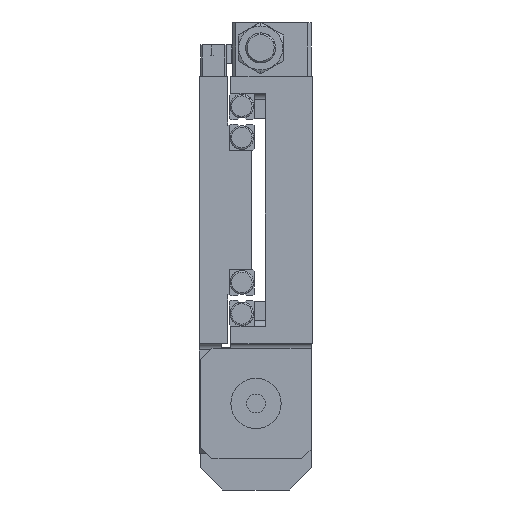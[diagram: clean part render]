
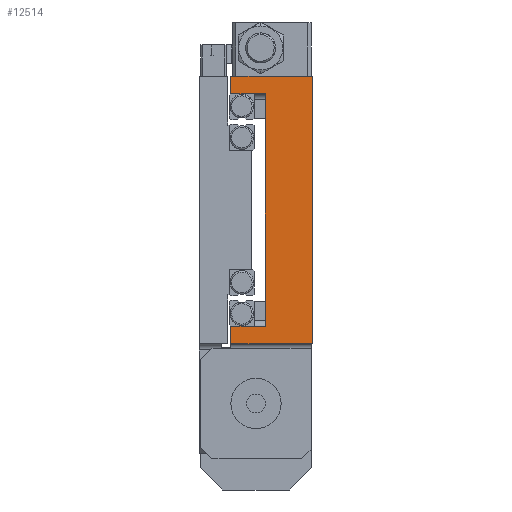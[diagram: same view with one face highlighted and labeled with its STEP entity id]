
A CAD part, left-side view. The second image highlights one B-rep face of the part: STEP entity #12514.
In plain terms, the highlighted planar face has unit normal (-1, 0, 0).
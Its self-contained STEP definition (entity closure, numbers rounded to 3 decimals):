
#40 = ORIENTED_EDGE ( 'NONE', *, *, #30663, .F. ) ;
#779 = LINE ( 'NONE', #3667, #20384 ) ;
#1010 = ORIENTED_EDGE ( 'NONE', *, *, #1670, .T. ) ;
#1014 = DIRECTION ( 'NONE',  ( 1., 0., 0. ) ) ;
#1195 = DIRECTION ( 'NONE',  ( 0., 0., -1. ) ) ;
#1315 = DIRECTION ( 'NONE',  ( 0., -1., 0. ) ) ;
#1670 = EDGE_CURVE ( 'NONE', #10499, #7790, #22744, .T. ) ;
#1713 = EDGE_LOOP ( 'NONE', ( #29705, #1010, #7358, #28256, #29927, #18476, #40, #2095 ) ) ;
#2095 = ORIENTED_EDGE ( 'NONE', *, *, #21143, .F. ) ;
#3362 = PLANE ( 'NONE',  #12503 ) ;
#3667 = CARTESIAN_POINT ( 'NONE',  ( -240., 26., 42.5 ) ) ;
#3966 = LINE ( 'NONE', #17912, #9186 ) ;
#4337 = LINE ( 'NONE', #18289, #34041 ) ;
#6618 = DIRECTION ( 'NONE',  ( 0., 0., 1. ) ) ;
#6886 = EDGE_CURVE ( 'NONE', #16620, #7790, #11387, .T. ) ;
#6970 = EDGE_CURVE ( 'NONE', #10499, #16395, #3966, .T. ) ;
#7358 = ORIENTED_EDGE ( 'NONE', *, *, #6886, .F. ) ;
#7663 = VERTEX_POINT ( 'NONE', #19944 ) ;
#7790 = VERTEX_POINT ( 'NONE', #27795 ) ;
#8372 = EDGE_CURVE ( 'NONE', #31677, #16620, #31348, .T. ) ;
#8686 = VECTOR ( 'NONE', #31951, 1000. ) ;
#8983 = VERTEX_POINT ( 'NONE', #32545 ) ;
#9141 = DIRECTION ( 'NONE',  ( 0., 1., 0. ) ) ;
#9186 = VECTOR ( 'NONE', #31973, 1000. ) ;
#9223 = CARTESIAN_POINT ( 'NONE',  ( -240., 26., 42.5 ) ) ;
#9296 = VECTOR ( 'NONE', #9141, 1000. ) ;
#9383 = CARTESIAN_POINT ( 'NONE',  ( -240., 15., -37. ) ) ;
#10499 = VERTEX_POINT ( 'NONE', #9383 ) ;
#11387 = LINE ( 'NONE', #9223, #33394 ) ;
#12503 = AXIS2_PLACEMENT_3D ( 'NONE', #31017, #1014, #1195 ) ;
#12514 = ADVANCED_FACE ( 'NONE', ( #28137 ), #3362, .F. ) ;
#13231 = VERTEX_POINT ( 'NONE', #25883 ) ;
#14443 = DIRECTION ( 'NONE',  ( 0., 1., 0. ) ) ;
#14913 = CARTESIAN_POINT ( 'NONE',  ( -240., 26., -42.5 ) ) ;
#15109 = EDGE_CURVE ( 'NONE', #31677, #8983, #31003, .T. ) ;
#15464 = CARTESIAN_POINT ( 'NONE',  ( -240., 0., -42.5 ) ) ;
#16395 = VERTEX_POINT ( 'NONE', #29184 ) ;
#16620 = VERTEX_POINT ( 'NONE', #14913 ) ;
#17912 = CARTESIAN_POINT ( 'NONE',  ( -240., 15., -29. ) ) ;
#18289 = CARTESIAN_POINT ( 'NONE',  ( -240., 18.5, 37. ) ) ;
#18476 = ORIENTED_EDGE ( 'NONE', *, *, #25290, .F. ) ;
#19944 = CARTESIAN_POINT ( 'NONE',  ( -240., 26., 37. ) ) ;
#20384 = VECTOR ( 'NONE', #1315, 1000. ) ;
#21143 = EDGE_CURVE ( 'NONE', #16395, #7663, #4337, .T. ) ;
#22416 = DIRECTION ( 'NONE',  ( 0., 0., 1. ) ) ;
#22744 = LINE ( 'NONE', #24912, #23876 ) ;
#22755 = VECTOR ( 'NONE', #6618, 1000. ) ;
#23527 = CARTESIAN_POINT ( 'NONE',  ( -240., 0., -42.5 ) ) ;
#23876 = VECTOR ( 'NONE', #14443, 1000. ) ;
#24403 = DIRECTION ( 'NONE',  ( 0., 1., 0. ) ) ;
#24912 = CARTESIAN_POINT ( 'NONE',  ( -240., 18.5, -37. ) ) ;
#25290 = EDGE_CURVE ( 'NONE', #13231, #8983, #779, .T. ) ;
#25883 = CARTESIAN_POINT ( 'NONE',  ( -240., 26., 42.5 ) ) ;
#27795 = CARTESIAN_POINT ( 'NONE',  ( -240., 26., -37. ) ) ;
#28137 = FACE_OUTER_BOUND ( 'NONE', #1713, .T. ) ;
#28256 = ORIENTED_EDGE ( 'NONE', *, *, #8372, .F. ) ;
#28660 = CARTESIAN_POINT ( 'NONE',  ( -240., 0., 42.5 ) ) ;
#28875 = LINE ( 'NONE', #31406, #8686 ) ;
#29184 = CARTESIAN_POINT ( 'NONE',  ( -240., 15., 37. ) ) ;
#29705 = ORIENTED_EDGE ( 'NONE', *, *, #6970, .F. ) ;
#29927 = ORIENTED_EDGE ( 'NONE', *, *, #15109, .T. ) ;
#30663 = EDGE_CURVE ( 'NONE', #7663, #13231, #28875, .T. ) ;
#31003 = LINE ( 'NONE', #28660, #22755 ) ;
#31017 = CARTESIAN_POINT ( 'NONE',  ( -240., 26., 42.5 ) ) ;
#31348 = LINE ( 'NONE', #15464, #9296 ) ;
#31406 = CARTESIAN_POINT ( 'NONE',  ( -240., 26., 42.5 ) ) ;
#31677 = VERTEX_POINT ( 'NONE', #23527 ) ;
#31951 = DIRECTION ( 'NONE',  ( 0., 0., 1. ) ) ;
#31973 = DIRECTION ( 'NONE',  ( 0., 0., 1. ) ) ;
#32545 = CARTESIAN_POINT ( 'NONE',  ( -240., 0., 42.5 ) ) ;
#33394 = VECTOR ( 'NONE', #22416, 1000. ) ;
#34041 = VECTOR ( 'NONE', #24403, 1000. ) ;
